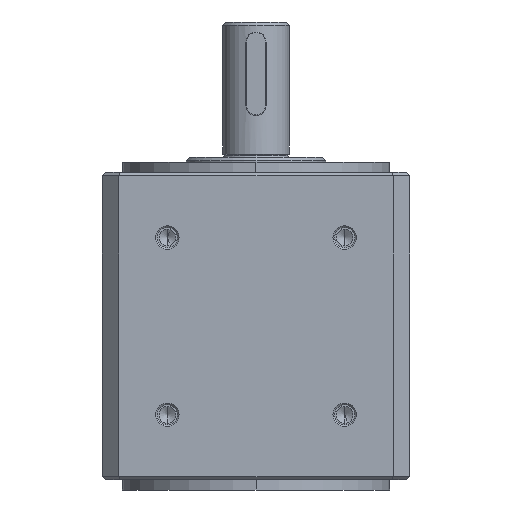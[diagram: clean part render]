
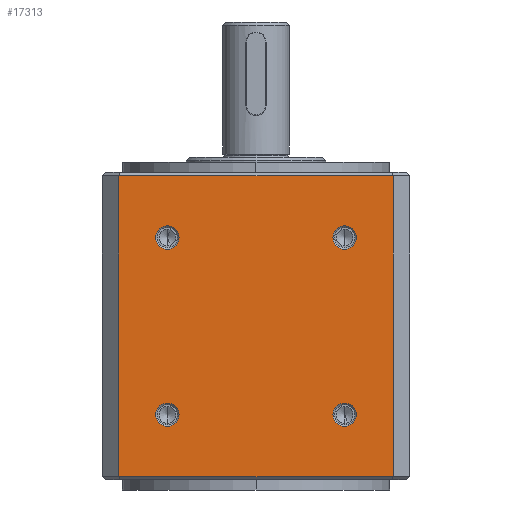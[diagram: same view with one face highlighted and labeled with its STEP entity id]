
A CAD part, left-side view. The second image highlights one B-rep face of the part: STEP entity #17313.
In plain terms, the highlighted planar face has unit normal (-1, 0, 0).
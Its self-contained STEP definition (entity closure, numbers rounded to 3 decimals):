
#13401 = CARTESIAN_POINT ( 'NONE',  ( -46., -41., 94. ) ) ;
#13402 = DIRECTION ( 'NONE',  ( 0., 0., 1. ) ) ;
#13403 = VECTOR ( 'NONE', #13402, 1000. ) ;
#13404 = CARTESIAN_POINT ( 'NONE',  ( -46., -41., 98. ) ) ;
#13405 = LINE ( 'NONE', #13404, #13403 ) ;
#13421 = DIRECTION ( 'NONE',  ( 0., 0., 1. ) ) ;
#13422 = DIRECTION ( 'NONE',  ( -1., 0., 0. ) ) ;
#13423 = AXIS2_PLACEMENT_3D ( 'NONE', #13428, #13422, #13421 ) ;
#13424 = CIRCLE ( 'NONE', #13423, 3.5 ) ;
#13428 = CARTESIAN_POINT ( 'NONE',  ( -46., -26.517, 22.483 ) ) ;
#13523 = DIRECTION ( 'NONE',  ( 0., 0., 1. ) ) ;
#13524 = DIRECTION ( 'NONE',  ( -1., 0., 0. ) ) ;
#13525 = CARTESIAN_POINT ( 'NONE',  ( -46., 26.517, 75.517 ) ) ;
#13526 = AXIS2_PLACEMENT_3D ( 'NONE', #13525, #13524, #13523 ) ;
#13527 = CIRCLE ( 'NONE', #13526, 3.5 ) ;
#13576 = DIRECTION ( 'NONE',  ( 0., 1., 0. ) ) ;
#13577 = VECTOR ( 'NONE', #13576, 1000. ) ;
#13578 = CARTESIAN_POINT ( 'NONE',  ( -46., 41., 94. ) ) ;
#13584 = LINE ( 'NONE', #13578, #13577 ) ;
#16920 = VERTEX_POINT ( 'NONE', #26473 ) ;
#16995 = EDGE_CURVE ( 'NONE', #16920, #17441, #26353, .T. ) ;
#17005 = EDGE_CURVE ( 'NONE', #17022, #17006, #26767, .T. ) ;
#17006 = VERTEX_POINT ( 'NONE', #26739 ) ;
#17022 = VERTEX_POINT ( 'NONE', #26744 ) ;
#17120 = EDGE_CURVE ( 'NONE', #17148, #17121, #26968, .T. ) ;
#17121 = VERTEX_POINT ( 'NONE', #26963 ) ;
#17148 = VERTEX_POINT ( 'NONE', #27054 ) ;
#17198 = ORIENTED_EDGE ( 'NONE', *, *, #17287, .T. ) ;
#17199 = EDGE_CURVE ( 'NONE', #17006, #17022, #26917, .T. ) ;
#17210 = EDGE_CURVE ( 'NONE', #17121, #17148, #27334, .T. ) ;
#17287 = EDGE_CURVE ( 'NONE', #17288, #17303, #27424, .T. ) ;
#17288 = VERTEX_POINT ( 'NONE', #27317 ) ;
#17292 = EDGE_CURVE ( 'NONE', #17303, #17293, #27314, .T. ) ;
#17293 = VERTEX_POINT ( 'NONE', #27310 ) ;
#17295 = ORIENTED_EDGE ( 'NONE', *, *, #17199, .F. ) ;
#17296 = ORIENTED_EDGE ( 'NONE', *, *, #17625, .F. ) ;
#17302 = ORIENTED_EDGE ( 'NONE', *, *, #17636, .T. ) ;
#17303 = VERTEX_POINT ( 'NONE', #27296 ) ;
#17304 = ORIENTED_EDGE ( 'NONE', *, *, #17292, .T. ) ;
#17306 = ORIENTED_EDGE ( 'NONE', *, *, #17120, .F. ) ;
#17307 = EDGE_LOOP ( 'NONE', ( #17295, #17622 ) ) ;
#17308 = EDGE_LOOP ( 'NONE', ( #17198, #17304, #17302, #17643 ) ) ;
#17313 = ADVANCED_FACE ( 'NONE', ( #27404, #27397, #27396, #27395, #27393 ), #27392, .F. ) ;
#17314 = EDGE_LOOP ( 'NONE', ( #17619, #17306 ) ) ;
#17360 = EDGE_CURVE ( 'NONE', #17415, #17417, #27583, .T. ) ;
#17415 = VERTEX_POINT ( 'NONE', #27515 ) ;
#17417 = VERTEX_POINT ( 'NONE', #27514 ) ;
#17441 = VERTEX_POINT ( 'NONE', #27713 ) ;
#17614 = EDGE_LOOP ( 'NONE', ( #17626, #17621 ) ) ;
#17615 = EDGE_LOOP ( 'NONE', ( #17296, #17635 ) ) ;
#17619 = ORIENTED_EDGE ( 'NONE', *, *, #17210, .F. ) ;
#17620 = EDGE_CURVE ( 'NONE', #17417, #17415, #13527, .T. ) ;
#17621 = ORIENTED_EDGE ( 'NONE', *, *, #17360, .F. ) ;
#17622 = ORIENTED_EDGE ( 'NONE', *, *, #17005, .F. ) ;
#17625 = EDGE_CURVE ( 'NONE', #17441, #16920, #13424, .T. ) ;
#17626 = ORIENTED_EDGE ( 'NONE', *, *, #17620, .F. ) ;
#17635 = ORIENTED_EDGE ( 'NONE', *, *, #16995, .F. ) ;
#17636 = EDGE_CURVE ( 'NONE', #17293, #17637, #13405, .T. ) ;
#17637 = VERTEX_POINT ( 'NONE', #13401 ) ;
#17643 = ORIENTED_EDGE ( 'NONE', *, *, #17644, .T. ) ;
#17644 = EDGE_CURVE ( 'NONE', #17637, #17288, #13584, .T. ) ;
#26349 = DIRECTION ( 'NONE',  ( 0., 0., 1. ) ) ;
#26350 = DIRECTION ( 'NONE',  ( -1., 0., 0. ) ) ;
#26351 = CARTESIAN_POINT ( 'NONE',  ( -46., -26.517, 22.483 ) ) ;
#26352 = AXIS2_PLACEMENT_3D ( 'NONE', #26351, #26350, #26349 ) ;
#26353 = CIRCLE ( 'NONE', #26352, 3.5 ) ;
#26473 = CARTESIAN_POINT ( 'NONE',  ( -46., -26.517, 18.983 ) ) ;
#26739 = CARTESIAN_POINT ( 'NONE',  ( -46., -26.517, 79.017 ) ) ;
#26744 = CARTESIAN_POINT ( 'NONE',  ( -46., -26.517, 72.017 ) ) ;
#26763 = DIRECTION ( 'NONE',  ( 0., 0., 1. ) ) ;
#26764 = DIRECTION ( 'NONE',  ( -1., 0., 0. ) ) ;
#26765 = CARTESIAN_POINT ( 'NONE',  ( -46., -26.517, 75.517 ) ) ;
#26766 = AXIS2_PLACEMENT_3D ( 'NONE', #26765, #26764, #26763 ) ;
#26767 = CIRCLE ( 'NONE', #26766, 3.5 ) ;
#26913 = DIRECTION ( 'NONE',  ( 0., 0., 1. ) ) ;
#26914 = DIRECTION ( 'NONE',  ( -1., 0., 0. ) ) ;
#26915 = CARTESIAN_POINT ( 'NONE',  ( -46., -26.517, 75.517 ) ) ;
#26916 = AXIS2_PLACEMENT_3D ( 'NONE', #26915, #26914, #26913 ) ;
#26917 = CIRCLE ( 'NONE', #26916, 3.5 ) ;
#26963 = CARTESIAN_POINT ( 'NONE',  ( -46., 26.517, 25.983 ) ) ;
#26964 = DIRECTION ( 'NONE',  ( 0., 0., 1. ) ) ;
#26965 = DIRECTION ( 'NONE',  ( -1., 0., 0. ) ) ;
#26966 = CARTESIAN_POINT ( 'NONE',  ( -46., 26.517, 22.483 ) ) ;
#26967 = AXIS2_PLACEMENT_3D ( 'NONE', #26966, #26965, #26964 ) ;
#26968 = CIRCLE ( 'NONE', #26967, 3.5 ) ;
#27054 = CARTESIAN_POINT ( 'NONE',  ( -46., 26.517, 18.983 ) ) ;
#27296 = CARTESIAN_POINT ( 'NONE',  ( -46., 41., 4. ) ) ;
#27310 = CARTESIAN_POINT ( 'NONE',  ( -46., -41., 4. ) ) ;
#27311 = DIRECTION ( 'NONE',  ( 0., -1., 0. ) ) ;
#27312 = VECTOR ( 'NONE', #27311, 1000. ) ;
#27313 = CARTESIAN_POINT ( 'NONE',  ( -46., -41., 4. ) ) ;
#27314 = LINE ( 'NONE', #27313, #27312 ) ;
#27317 = CARTESIAN_POINT ( 'NONE',  ( -46., 41., 94. ) ) ;
#27319 = VECTOR ( 'NONE', #27419, 1000. ) ;
#27329 = DIRECTION ( 'NONE',  ( 0., 0., 1. ) ) ;
#27330 = DIRECTION ( 'NONE',  ( -1., 0., 0. ) ) ;
#27331 = CARTESIAN_POINT ( 'NONE',  ( -46., 26.517, 22.483 ) ) ;
#27333 = AXIS2_PLACEMENT_3D ( 'NONE', #27331, #27330, #27329 ) ;
#27334 = CIRCLE ( 'NONE', #27333, 3.5 ) ;
#27384 = DIRECTION ( 'NONE',  ( 0., 1., 0. ) ) ;
#27385 = DIRECTION ( 'NONE',  ( 1., 0., 0. ) ) ;
#27386 = CARTESIAN_POINT ( 'NONE',  ( -46., 46., 98. ) ) ;
#27387 = AXIS2_PLACEMENT_3D ( 'NONE', #27386, #27385, #27384 ) ;
#27392 = PLANE ( 'NONE',  #27387 ) ;
#27393 = FACE_OUTER_BOUND ( 'NONE', #17308, .T. ) ;
#27395 = FACE_BOUND ( 'NONE', #17614, .T. ) ;
#27396 = FACE_BOUND ( 'NONE', #17307, .T. ) ;
#27397 = FACE_BOUND ( 'NONE', #17615, .T. ) ;
#27404 = FACE_BOUND ( 'NONE', #17314, .T. ) ;
#27419 = DIRECTION ( 'NONE',  ( 0., 0., -1. ) ) ;
#27420 = CARTESIAN_POINT ( 'NONE',  ( -46., 41., 98. ) ) ;
#27424 = LINE ( 'NONE', #27420, #27319 ) ;
#27514 = CARTESIAN_POINT ( 'NONE',  ( -46., 26.517, 79.017 ) ) ;
#27515 = CARTESIAN_POINT ( 'NONE',  ( -46., 26.517, 72.017 ) ) ;
#27579 = DIRECTION ( 'NONE',  ( 0., 0., 1. ) ) ;
#27580 = DIRECTION ( 'NONE',  ( -1., 0., 0. ) ) ;
#27581 = CARTESIAN_POINT ( 'NONE',  ( -46., 26.517, 75.517 ) ) ;
#27582 = AXIS2_PLACEMENT_3D ( 'NONE', #27581, #27580, #27579 ) ;
#27583 = CIRCLE ( 'NONE', #27582, 3.5 ) ;
#27713 = CARTESIAN_POINT ( 'NONE',  ( -46., -26.517, 25.983 ) ) ;
